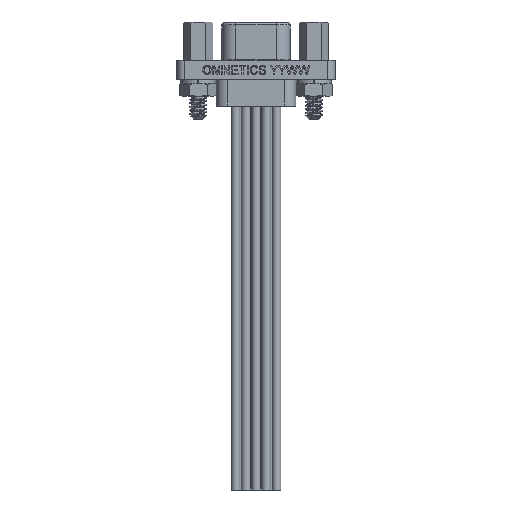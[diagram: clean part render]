
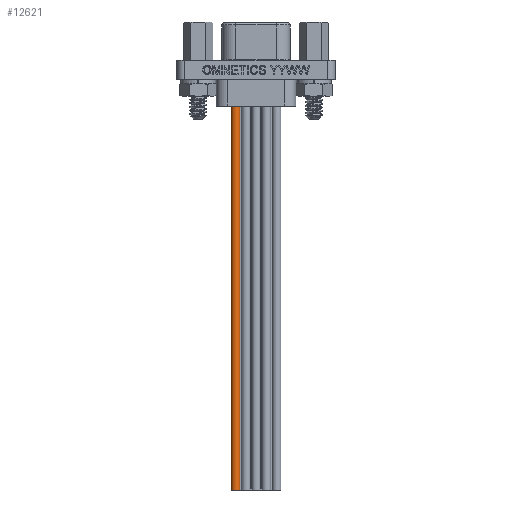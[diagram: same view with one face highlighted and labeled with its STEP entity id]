
A CAD part, front view. The second image highlights one B-rep face of the part: STEP entity #12621.
In plain terms, the highlighted cylindrical face has radius 0.546 mm (diameter 1.092 mm), a partial arc.
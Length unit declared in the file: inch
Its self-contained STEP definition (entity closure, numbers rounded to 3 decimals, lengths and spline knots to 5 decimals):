
#1194 = DIRECTION ( 'NONE',  ( -1., 0., 0. ) ) ;
#2046 = VERTEX_POINT ( 'NONE', #26493 ) ;
#2152 = ORIENTED_EDGE ( 'NONE', *, *, #4111, .F. ) ;
#2296 = ORIENTED_EDGE ( 'NONE', *, *, #18540, .F. ) ;
#2342 = VERTEX_POINT ( 'NONE', #17963 ) ;
#2661 = AXIS2_PLACEMENT_3D ( 'NONE', #20614, #4923, #16258 ) ;
#2823 = VERTEX_POINT ( 'NONE', #12696 ) ;
#3471 = DIRECTION ( 'NONE',  ( 0., 0., -1. ) ) ;
#4111 = EDGE_CURVE ( 'NONE', #2823, #2046, #7517, .T. ) ;
#4305 = LINE ( 'NONE', #19771, #23964 ) ;
#4923 = DIRECTION ( 'NONE',  ( 0., 0., 1. ) ) ;
#5418 = EDGE_LOOP ( 'NONE', ( #2152, #2296, #16880, #11357 ) ) ;
#7517 = LINE ( 'NONE', #16015, #11998 ) ;
#7700 = FACE_OUTER_BOUND ( 'NONE', #5418, .T. ) ;
#8377 = CARTESIAN_POINT ( 'NONE',  ( -0.1, -0.02165, -0.181 ) ) ;
#8606 = DIRECTION ( 'NONE',  ( 0., -1., 0. ) ) ;
#8770 = DIRECTION ( 'NONE',  ( 0., 0., 1. ) ) ;
#10307 = CIRCLE ( 'NONE', #17552, 0.0215 ) ;
#11357 = ORIENTED_EDGE ( 'NONE', *, *, #21440, .T. ) ;
#11998 = VECTOR ( 'NONE', #27062, 39.37008 ) ;
#12363 = EDGE_CURVE ( 'NONE', #28260, #2342, #4305, .T. ) ;
#12498 = CARTESIAN_POINT ( 'NONE',  ( -0.1, -0.02165, -2.056 ) ) ;
#12621 = ADVANCED_FACE ( 'NONE', ( #7700 ), #18397, .T. ) ;
#12696 = CARTESIAN_POINT ( 'NONE',  ( -0.1215, -0.02165, -2.056 ) ) ;
#15040 = DIRECTION ( 'NONE',  ( 0., 0., -1. ) ) ;
#15968 = AXIS2_PLACEMENT_3D ( 'NONE', #8377, #15040, #8606 ) ;
#16015 = CARTESIAN_POINT ( 'NONE',  ( -0.1215, -0.02165, -2.056 ) ) ;
#16258 = DIRECTION ( 'NONE',  ( 1., 0., 0. ) ) ;
#16880 = ORIENTED_EDGE ( 'NONE', *, *, #12363, .T. ) ;
#17552 = AXIS2_PLACEMENT_3D ( 'NONE', #12498, #3471, #1194 ) ;
#17963 = CARTESIAN_POINT ( 'NONE',  ( -0.0785, -0.02165, -0.181 ) ) ;
#18397 = CYLINDRICAL_SURFACE ( 'NONE', #2661, 0.0215 ) ;
#18540 = EDGE_CURVE ( 'NONE', #28260, #2823, #10307, .T. ) ;
#19515 = CIRCLE ( 'NONE', #15968, 0.0215 ) ;
#19771 = CARTESIAN_POINT ( 'NONE',  ( -0.0785, -0.02165, -2.056 ) ) ;
#20614 = CARTESIAN_POINT ( 'NONE',  ( -0.1, -0.02165, -2.056 ) ) ;
#21440 = EDGE_CURVE ( 'NONE', #2342, #2046, #19515, .T. ) ;
#23964 = VECTOR ( 'NONE', #8770, 39.37008 ) ;
#26493 = CARTESIAN_POINT ( 'NONE',  ( -0.1215, -0.02165, -0.181 ) ) ;
#27062 = DIRECTION ( 'NONE',  ( 0., 0., 1. ) ) ;
#27831 = CARTESIAN_POINT ( 'NONE',  ( -0.0785, -0.02165, -2.056 ) ) ;
#28260 = VERTEX_POINT ( 'NONE', #27831 ) ;
